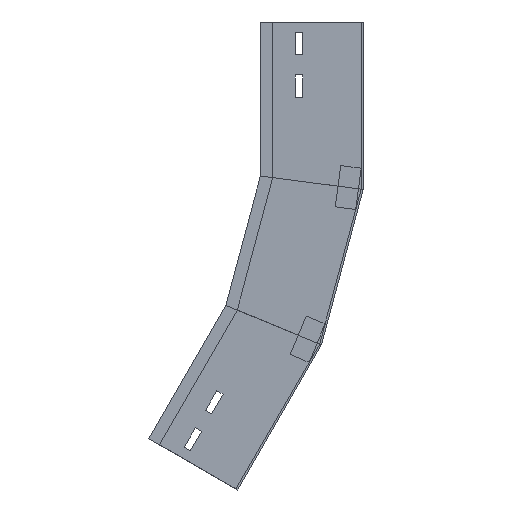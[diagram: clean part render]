
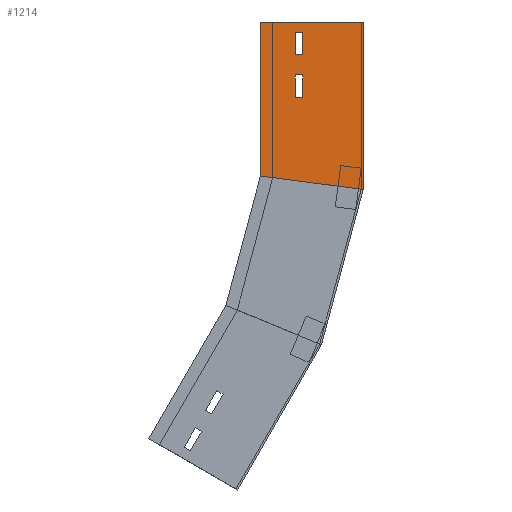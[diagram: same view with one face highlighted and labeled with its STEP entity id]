
A CAD part, left-side view. The second image highlights one B-rep face of the part: STEP entity #1214.
In plain terms, the highlighted planar face has unit normal (-1, 0, 0) as drawn and (1, 0, 0) by its records, which use the part's own axes.
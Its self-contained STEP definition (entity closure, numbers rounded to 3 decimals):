
#9 = EDGE_CURVE ( 'NONE', #409, #1232, #486, .T. ) ;
#12 = CARTESIAN_POINT ( 'NONE',  ( 0., 122.031, -455.426 ) ) ;
#72 = EDGE_LOOP ( 'NONE', ( #372, #781, #1103, #259 ) ) ;
#73 = VECTOR ( 'NONE', #1153, 1000. ) ;
#74 = DIRECTION ( 'NONE',  ( 0., -0.924, -0.383 ) ) ;
#76 = EDGE_CURVE ( 'NONE', #200, #1234, #681, .T. ) ;
#83 = CARTESIAN_POINT ( 'NONE',  ( 0., 40.531, -314.264 ) ) ;
#92 = AXIS2_PLACEMENT_3D ( 'NONE', #83, #572, #1032 ) ;
#93 = DIRECTION ( 'NONE',  ( 0., -0.866, -0.5 ) ) ;
#105 = EDGE_LOOP ( 'NONE', ( #1474, #444, #1255, #1412 ) ) ;
#113 = CARTESIAN_POINT ( 'NONE',  ( 0., 157.209, -398.356 ) ) ;
#124 = LINE ( 'NONE', #246, #404 ) ;
#129 = CARTESIAN_POINT ( 'NONE',  ( 0., 142.436, -358.769 ) ) ;
#131 = VECTOR ( 'NONE', #1002, 1000. ) ;
#154 = EDGE_CURVE ( 'NONE', #1372, #383, #953, .T. ) ;
#165 = LINE ( 'NONE', #994, #1120 ) ;
#169 = EDGE_CURVE ( 'NONE', #932, #409, #777, .T. ) ;
#190 = CARTESIAN_POINT ( 'NONE',  ( 0., 168.209, -417.409 ) ) ;
#200 = VERTEX_POINT ( 'NONE', #802 ) ;
#215 = FACE_BOUND ( 'NONE', #72, .T. ) ;
#242 = VECTOR ( 'NONE', #93, 1000. ) ;
#246 = CARTESIAN_POINT ( 'NONE',  ( 0., 174.271, -413.909 ) ) ;
#259 = ORIENTED_EDGE ( 'NONE', *, *, #76, .F. ) ;
#269 = EDGE_CURVE ( 'NONE', #1232, #659, #165, .T. ) ;
#270 = VERTEX_POINT ( 'NONE', #1109 ) ;
#276 = CARTESIAN_POINT ( 'NONE',  ( 0., 208.634, -405.426 ) ) ;
#278 = ORIENTED_EDGE ( 'NONE', *, *, #154, .T. ) ;
#288 = EDGE_CURVE ( 'NONE', #270, #1372, #1323, .T. ) ;
#310 = VERTEX_POINT ( 'NONE', #276 ) ;
#331 = VERTEX_POINT ( 'NONE', #546 ) ;
#342 = CARTESIAN_POINT ( 'NONE',  ( 0., 136.374, -362.269 ) ) ;
#361 = EDGE_CURVE ( 'NONE', #1023, #331, #371, .T. ) ;
#371 = LINE ( 'NONE', #1052, #73 ) ;
#372 = ORIENTED_EDGE ( 'NONE', *, *, #381, .F. ) ;
#381 = EDGE_CURVE ( 'NONE', #331, #200, #124, .T. ) ;
#382 = DIRECTION ( 'NONE',  ( 0., 0.866, 0.5 ) ) ;
#383 = VERTEX_POINT ( 'NONE', #810 ) ;
#404 = VECTOR ( 'NONE', #940, 1000. ) ;
#409 = VERTEX_POINT ( 'NONE', #129 ) ;
#444 = ORIENTED_EDGE ( 'NONE', *, *, #488, .F. ) ;
#456 = ORIENTED_EDGE ( 'NONE', *, *, #627, .T. ) ;
#475 = VECTOR ( 'NONE', #74, 1000. ) ;
#486 = LINE ( 'NONE', #959, #825 ) ;
#488 = EDGE_CURVE ( 'NONE', #659, #932, #713, .T. ) ;
#546 = CARTESIAN_POINT ( 'NONE',  ( 0., 174.271, -413.909 ) ) ;
#566 = EDGE_CURVE ( 'NONE', #270, #310, #803, .T. ) ;
#572 = DIRECTION ( 'NONE',  ( -1., 0., 0. ) ) ;
#575 = ORIENTED_EDGE ( 'NONE', *, *, #288, .T. ) ;
#602 = LINE ( 'NONE', #12, #1087 ) ;
#627 = EDGE_CURVE ( 'NONE', #383, #310, #602, .T. ) ;
#636 = VECTOR ( 'NONE', #1031, 1000. ) ;
#651 = VECTOR ( 'NONE', #656, 1000. ) ;
#656 = DIRECTION ( 'NONE',  ( 0., -0.5, 0.866 ) ) ;
#659 = VERTEX_POINT ( 'NONE', #1225 ) ;
#663 = CARTESIAN_POINT ( 'NONE',  ( 0., 40.531, -314.264 ) ) ;
#670 = FACE_BOUND ( 'NONE', #105, .T. ) ;
#681 = LINE ( 'NONE', #1235, #242 ) ;
#698 = PLANE ( 'NONE',  #92 ) ;
#713 = LINE ( 'NONE', #1183, #718 ) ;
#718 = VECTOR ( 'NONE', #1381, 1000. ) ;
#764 = LINE ( 'NONE', #190, #131 ) ;
#777 = LINE ( 'NONE', #1123, #651 ) ;
#781 = ORIENTED_EDGE ( 'NONE', *, *, #361, .F. ) ;
#802 = CARTESIAN_POINT ( 'NONE',  ( 0., 163.271, -394.856 ) ) ;
#803 = LINE ( 'NONE', #1229, #636 ) ;
#810 = CARTESIAN_POINT ( 'NONE',  ( 0., 122.031, -455.426 ) ) ;
#825 = VECTOR ( 'NONE', #1060, 1000. ) ;
#833 = DIRECTION ( 'NONE',  ( 0., 0.5, -0.866 ) ) ;
#890 = ORIENTED_EDGE ( 'NONE', *, *, #566, .F. ) ;
#926 = EDGE_LOOP ( 'NONE', ( #575, #278, #456, #890 ) ) ;
#932 = VERTEX_POINT ( 'NONE', #1370 ) ;
#940 = DIRECTION ( 'NONE',  ( 0., -0.5, 0.866 ) ) ;
#949 = VECTOR ( 'NONE', #833, 1000. ) ;
#953 = LINE ( 'NONE', #1391, #949 ) ;
#959 = CARTESIAN_POINT ( 'NONE',  ( 0., 142.436, -358.769 ) ) ;
#994 = CARTESIAN_POINT ( 'NONE',  ( 0., 147.374, -381.321 ) ) ;
#1002 = DIRECTION ( 'NONE',  ( 0., 0.5, -0.866 ) ) ;
#1023 = VERTEX_POINT ( 'NONE', #1253 ) ;
#1031 = DIRECTION ( 'NONE',  ( 0., 0.5, -0.866 ) ) ;
#1032 = DIRECTION ( 'NONE',  ( 0., 0., 1. ) ) ;
#1052 = CARTESIAN_POINT ( 'NONE',  ( 0., 174.271, -413.909 ) ) ;
#1060 = DIRECTION ( 'NONE',  ( 0., -0.866, -0.5 ) ) ;
#1087 = VECTOR ( 'NONE', #382, 1000. ) ;
#1103 = ORIENTED_EDGE ( 'NONE', *, *, #1407, .F. ) ;
#1109 = CARTESIAN_POINT ( 'NONE',  ( 0., 133.716, -275.665 ) ) ;
#1120 = VECTOR ( 'NONE', #1428, 1000. ) ;
#1123 = CARTESIAN_POINT ( 'NONE',  ( 0., 153.436, -377.821 ) ) ;
#1153 = DIRECTION ( 'NONE',  ( 0., 0.866, 0.5 ) ) ;
#1183 = CARTESIAN_POINT ( 'NONE',  ( 0., 153.436, -377.821 ) ) ;
#1187 = CARTESIAN_POINT ( 'NONE',  ( 0., 59.416, -306.442 ) ) ;
#1214 = ADVANCED_FACE ( 'NONE', ( #215, #670, #1362 ), #698, .F. ) ;
#1225 = CARTESIAN_POINT ( 'NONE',  ( 0., 147.374, -381.321 ) ) ;
#1229 = CARTESIAN_POINT ( 'NONE',  ( 0., 127.134, -264.264 ) ) ;
#1232 = VERTEX_POINT ( 'NONE', #342 ) ;
#1234 = VERTEX_POINT ( 'NONE', #113 ) ;
#1235 = CARTESIAN_POINT ( 'NONE',  ( 0., 163.271, -394.856 ) ) ;
#1253 = CARTESIAN_POINT ( 'NONE',  ( 0., 168.209, -417.409 ) ) ;
#1255 = ORIENTED_EDGE ( 'NONE', *, *, #269, .F. ) ;
#1323 = LINE ( 'NONE', #1187, #475 ) ;
#1362 = FACE_OUTER_BOUND ( 'NONE', #926, .T. ) ;
#1370 = CARTESIAN_POINT ( 'NONE',  ( 0., 153.436, -377.821 ) ) ;
#1372 = VERTEX_POINT ( 'NONE', #663 ) ;
#1381 = DIRECTION ( 'NONE',  ( 0., 0.866, 0.5 ) ) ;
#1391 = CARTESIAN_POINT ( 'NONE',  ( 0., 40.531, -314.264 ) ) ;
#1407 = EDGE_CURVE ( 'NONE', #1234, #1023, #764, .T. ) ;
#1412 = ORIENTED_EDGE ( 'NONE', *, *, #9, .F. ) ;
#1428 = DIRECTION ( 'NONE',  ( 0., 0.5, -0.866 ) ) ;
#1474 = ORIENTED_EDGE ( 'NONE', *, *, #169, .F. ) ;
